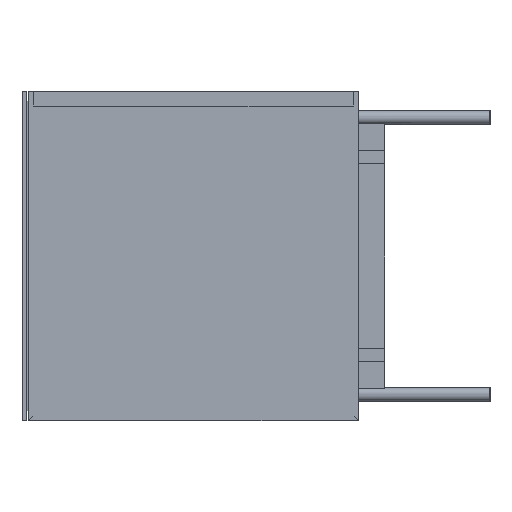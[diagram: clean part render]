
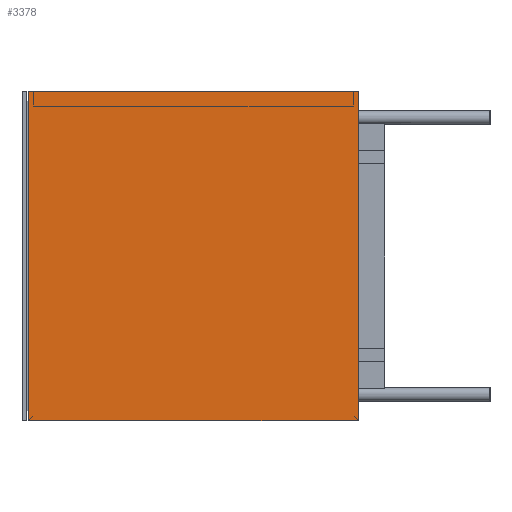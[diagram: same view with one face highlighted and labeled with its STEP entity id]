
A CAD part, left-side view. The second image highlights one B-rep face of the part: STEP entity #3378.
In plain terms, the highlighted planar face has unit normal (-1, 0, 0).
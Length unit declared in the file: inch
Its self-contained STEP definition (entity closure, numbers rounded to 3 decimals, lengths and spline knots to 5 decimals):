
#628=FACE_OUTER_BOUND('',#802,.T.);
#802=EDGE_LOOP('',(#2419,#2420,#2421,#2422));
#981=LINE('',#4816,#1343);
#985=LINE('',#4823,#1347);
#988=LINE('',#4829,#1350);
#990=LINE('',#4833,#1352);
#1343=VECTOR('',#3945,0.3937);
#1347=VECTOR('',#3951,0.3937);
#1350=VECTOR('',#3956,0.3937);
#1352=VECTOR('',#3962,0.3937);
#1703=VERTEX_POINT('',#4813);
#1704=VERTEX_POINT('',#4815);
#1706=VERTEX_POINT('',#4821);
#1707=VERTEX_POINT('',#4825);
#1981=EDGE_CURVE('',#1704,#1703,#981,.T.);
#1985=EDGE_CURVE('',#1706,#1703,#985,.T.);
#1988=EDGE_CURVE('',#1707,#1704,#988,.T.);
#1990=EDGE_CURVE('',#1707,#1706,#990,.T.);
#2419=ORIENTED_EDGE('',*,*,#1988,.T.);
#2420=ORIENTED_EDGE('',*,*,#1981,.T.);
#2421=ORIENTED_EDGE('',*,*,#1985,.F.);
#2422=ORIENTED_EDGE('',*,*,#1990,.F.);
#3222=PLANE('',#3683);
#3378=ADVANCED_FACE('',(#628),#3222,.T.);
#3683=AXIS2_PLACEMENT_3D('',#4834,#3963,#3964);
#3945=DIRECTION('',(0.,0.,1.));
#3951=DIRECTION('',(0.,-1.,0.));
#3956=DIRECTION('',(0.,-1.,0.));
#3962=DIRECTION('',(0.,0.,1.));
#3963=DIRECTION('center_axis',(-1.,0.,0.));
#3964=DIRECTION('ref_axis',(0.,-1.,0.));
#4813=CARTESIAN_POINT('',(0.,0.,25.));
#4815=CARTESIAN_POINT('',(0.,0.,0.));
#4816=CARTESIAN_POINT('',(0.,0.,0.));
#4821=CARTESIAN_POINT('',(0.,25.,25.));
#4823=CARTESIAN_POINT('',(0.,25.,25.));
#4825=CARTESIAN_POINT('',(0.,25.,0.));
#4829=CARTESIAN_POINT('',(0.,25.,0.));
#4833=CARTESIAN_POINT('',(0.,25.,0.));
#4834=CARTESIAN_POINT('Origin',(0.,25.,0.));
